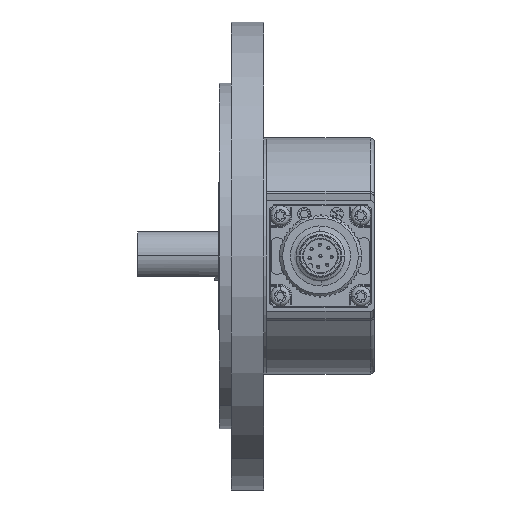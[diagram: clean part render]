
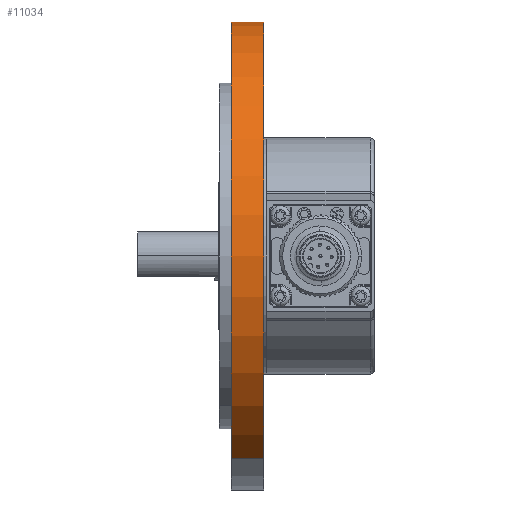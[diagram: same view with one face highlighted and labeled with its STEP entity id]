
A CAD part, front view. The second image highlights one B-rep face of the part: STEP entity #11034.
In plain terms, the highlighted cylindrical face has radius 57.5 mm (diameter 115 mm), a partial arc.
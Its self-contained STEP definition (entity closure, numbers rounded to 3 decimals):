
#2442 = DIRECTION ( 'NONE',  ( 0., -0.5, -0.866 ) ) ;
#4668 = CARTESIAN_POINT ( 'NONE',  ( -0.572, 54.173, 49.796 ) ) ;
#6811 = EDGE_LOOP ( 'NONE', ( #6951, #32537, #42544, #13825 ) ) ;
#6951 = ORIENTED_EDGE ( 'NONE', *, *, #43160, .F. ) ;
#8376 = CIRCLE ( 'NONE', #30345, 57.5 ) ;
#9875 = FACE_OUTER_BOUND ( 'NONE', #6811, .T. ) ;
#10005 = CARTESIAN_POINT ( 'NONE',  ( 7.428, 54.173, 49.796 ) ) ;
#11034 = ADVANCED_FACE ( 'NONE', ( #9875 ), #32683, .T. ) ;
#12480 = LINE ( 'NONE', #10005, #34726 ) ;
#13825 = ORIENTED_EDGE ( 'NONE', *, *, #37542, .F. ) ;
#15816 = VERTEX_POINT ( 'NONE', #17102 ) ;
#17102 = CARTESIAN_POINT ( 'NONE',  ( -0.572, -3.327, -49.796 ) ) ;
#17301 = VECTOR ( 'NONE', #24688, 1000. ) ;
#18202 = AXIS2_PLACEMENT_3D ( 'NONE', #20901, #29011, #47695 ) ;
#20901 = CARTESIAN_POINT ( 'NONE',  ( 7.428, 25.423, 0. ) ) ;
#22291 = VERTEX_POINT ( 'NONE', #4668 ) ;
#22733 = CARTESIAN_POINT ( 'NONE',  ( 7.428, 54.173, 49.796 ) ) ;
#23040 = CARTESIAN_POINT ( 'NONE',  ( 7.428, -3.327, -49.796 ) ) ;
#23334 = CARTESIAN_POINT ( 'NONE',  ( -0.572, 25.423, 0. ) ) ;
#24485 = DIRECTION ( 'NONE',  ( 1., 0., 0. ) ) ;
#24496 = EDGE_CURVE ( 'NONE', #22291, #15816, #8376, .T. ) ;
#24688 = DIRECTION ( 'NONE',  ( 1., 0., 0. ) ) ;
#26545 = CIRCLE ( 'NONE', #48540, 57.5 ) ;
#27461 = VERTEX_POINT ( 'NONE', #22733 ) ;
#27499 = CARTESIAN_POINT ( 'NONE',  ( 7.428, 25.423, 0. ) ) ;
#27881 = CARTESIAN_POINT ( 'NONE',  ( 7.428, -3.327, -49.796 ) ) ;
#29011 = DIRECTION ( 'NONE',  ( 1., 0., 0. ) ) ;
#30345 = AXIS2_PLACEMENT_3D ( 'NONE', #23334, #38337, #2442 ) ;
#32537 = ORIENTED_EDGE ( 'NONE', *, *, #24496, .T. ) ;
#32683 = CYLINDRICAL_SURFACE ( 'NONE', #18202, 57.5 ) ;
#34726 = VECTOR ( 'NONE', #24485, 1000. ) ;
#37542 = EDGE_CURVE ( 'NONE', #27461, #43111, #26545, .T. ) ;
#38337 = DIRECTION ( 'NONE',  ( 1., 0., 0. ) ) ;
#39425 = EDGE_CURVE ( 'NONE', #15816, #43111, #39907, .T. ) ;
#39907 = LINE ( 'NONE', #27881, #17301 ) ;
#42513 = DIRECTION ( 'NONE',  ( 0., -0.5, -0.866 ) ) ;
#42544 = ORIENTED_EDGE ( 'NONE', *, *, #39425, .T. ) ;
#43111 = VERTEX_POINT ( 'NONE', #23040 ) ;
#43160 = EDGE_CURVE ( 'NONE', #22291, #27461, #12480, .T. ) ;
#45479 = DIRECTION ( 'NONE',  ( 1., 0., 0. ) ) ;
#47695 = DIRECTION ( 'NONE',  ( 0., -0.5, -0.866 ) ) ;
#48540 = AXIS2_PLACEMENT_3D ( 'NONE', #27499, #45479, #42513 ) ;
